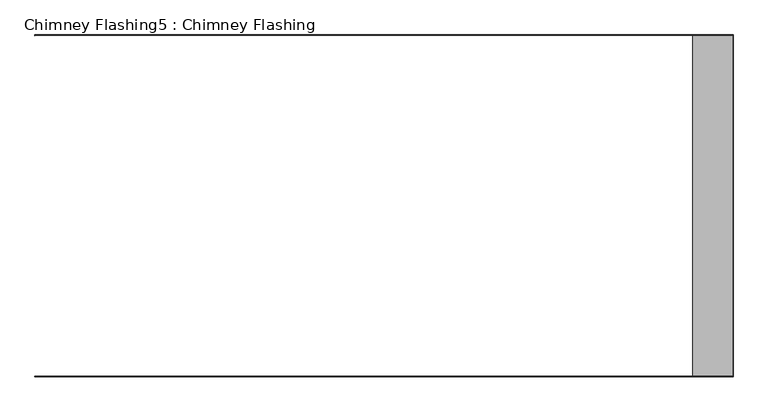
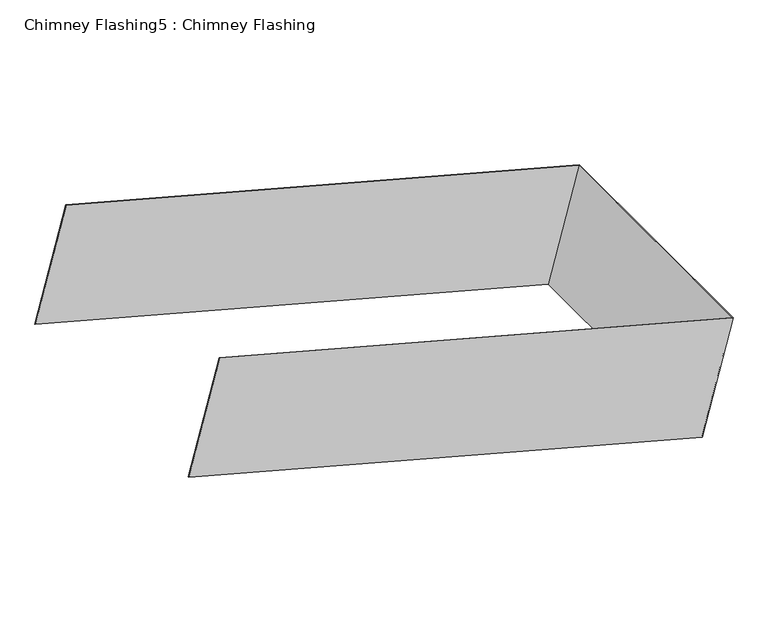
"""IFC4 building model written with IfcOpenShell, lengths in millimetres: proxy geometry, Chimney Flashing5 : Chimney Flashing."""

import ifcopenshell
import ifcopenshell.guid

model = None  # the IFC model being written
_history = None  # IfcOwnerHistory: only IFC2X3 demands one
_inside = {}  # id of a spatial element -> (the spatial element, [elements in it])
_under = {}  # id of a project, library or spatial element -> (it, [spatial elements below it])
_declared = {}  # id of a project -> (the project, [libraries it declares])
_typed = {}  # id of a type object -> (the type object, [elements of that type])
_made_of = {}  # id of a material, layer set ... -> (it, [elements and type objects made of it])


def new_model(schema):
    """Start an empty IFC model of exactly this schema.

    Asked for "IFC4X3", IfcOpenShell would pick the latest addendum, in which some entities
    have other attributes; the version numbers below select the first issue.
    IFC2X3 requires an IfcOwnerHistory on every rooted entity: one is made here for all.
    """
    global model, _history
    if schema == "IFC4X3":
        model = ifcopenshell.file(schema_version=(4, 3, 0, 0))
    else:
        model = ifcopenshell.file(schema=schema)
    _inside.clear()
    _under.clear()
    _declared.clear()
    _typed.clear()
    _made_of.clear()
    _history = None
    if model.schema == "IFC2X3":
        org = make("IfcOrganization", Name="unknown")
        user = make(
            "IfcPersonAndOrganization",
            ThePerson=make("IfcPerson", FamilyName="unknown"),
            TheOrganization=org,
        )
        app = make(
            "IfcApplication",
            ApplicationDeveloper=org,
            Version="unknown",
            ApplicationFullName="unknown",
            ApplicationIdentifier="unknown",
        )
        _history = make(
            "IfcOwnerHistory",
            OwningUser=user,
            OwningApplication=app,
            ChangeAction="ADDED",
            CreationDate=0,
        )
    return model


def make(cls, **values):
    """One entity of the class cls with the attributes given. An attribute that is None is left unset."""
    return model.create_entity(
        cls, **{name: value for name, value in values.items() if value is not None}
    )


def rooted(cls, **values):
    """An entity with a GlobalId (a new one), such as an element, a storey or a relation."""
    return make(cls, GlobalId=ifcopenshell.guid.new(), OwnerHistory=_history, **values)


def si_unit(unit_type, name, prefix=None):
    """IfcSIUnit, for example si_unit("LENGTHUNIT", "METRE", prefix="MILLI")."""
    return make("IfcSIUnit", UnitType=unit_type, Prefix=prefix, Name=name)


def assignment(units):
    """IfcUnitAssignment: the units of a project."""
    return None if units is None else make("IfcUnitAssignment", Units=units)


def point(xyz):
    """IfcCartesianPoint."""
    return None if xyz is None else make("IfcCartesianPoint", Coordinates=xyz)


def direction(xyz):
    """IfcDirection."""
    return None if xyz is None else make("IfcDirection", DirectionRatios=xyz)


def frame(location, z_axis=None, x_axis=None):
    """IfcAxis2Placement3D, a coordinate frame: its origin and axes. An axis left out is left unset."""
    return make(
        "IfcAxis2Placement3D",
        Location=point(location),
        Axis=direction(z_axis),
        RefDirection=direction(x_axis),
    )


def origin():
    """The frame at (0, 0, 0) with its axes left unset."""
    return frame((0.0, 0.0, 0.0))


def place(relative_to, where):
    """IfcLocalPlacement: puts the frame where relative to a parent placement (None: the world)."""
    return make(
        "IfcLocalPlacement", PlacementRelTo=relative_to, RelativePlacement=where
    )


def context(
    kind, dimensions, precision=None, world=None, true_north=None, identifier=None
):
    """IfcGeometricRepresentationContext, for example the 3D "Model" context."""
    return make(
        "IfcGeometricRepresentationContext",
        ContextIdentifier=identifier,
        ContextType=kind,
        CoordinateSpaceDimension=dimensions,
        Precision=precision,
        WorldCoordinateSystem=world,
        TrueNorth=true_north,
    )


def project(units=None, contexts=None):
    """IfcProject with its units and contexts."""
    return rooted(
        "IfcProject",
        Name="project",
        RepresentationContexts=contexts,
        UnitsInContext=assignment(units),
    )


def spatial(cls, under=None, at=None, **own):
    """A site, building, storey or space (cls), placed at a placement, below another one or the project."""
    s = rooted(cls, ObjectPlacement=at, **own)
    if under is not None:
        _under.setdefault(under.id(), (under, []))[1].append(s)
    return s


def polyline(points):
    """IfcPolyline through the points."""
    return make("IfcPolyline", Points=[point(p) for p in points])


def outline(outer, holes=None, kind="AREA"):
    """IfcArbitraryClosedProfileDef: a profile drawn as a closed curve; with holes, ...WithVoids."""
    if holes is None:
        return make("IfcArbitraryClosedProfileDef", ProfileType=kind, OuterCurve=outer)
    return make(
        "IfcArbitraryProfileDefWithVoids",
        ProfileType=kind,
        OuterCurve=outer,
        InnerCurves=holes,
    )


def extrude(swept, where, along, depth):
    """IfcExtrudedAreaSolid: the profile swept, set in the frame where, extruded along a direction by depth."""
    return make(
        "IfcExtrudedAreaSolid",
        SweptArea=swept,
        Position=where,
        ExtrudedDirection=direction(along),
        Depth=depth,
    )


def shape(context_of_items, identifier, shape_type, items):
    """IfcShapeRepresentation: the items that make up one representation, for example the "Body"."""
    return make(
        "IfcShapeRepresentation",
        ContextOfItems=context_of_items,
        RepresentationIdentifier=identifier,
        RepresentationType=shape_type,
        Items=items,
    )


def source(mapping_origin, context_of_items, identifier, shape_type, items):
    """IfcRepresentationMap: a shape defined once, which mapped items show again and again."""
    return make(
        "IfcRepresentationMap",
        MappingOrigin=mapping_origin,
        MappedRepresentation=shape(context_of_items, identifier, shape_type, items),
    )


def transform(
    local_origin,
    x_axis=None,
    y_axis=None,
    z_axis=None,
    scale=None,
    scale2=None,
    scale3=None,
    uniform=True,
):
    """IfcCartesianTransformationOperator3D, or its non-uniform kind. x_axis, y_axis, z_axis: its Axis1, 2, 3."""
    if uniform:
        return make(
            "IfcCartesianTransformationOperator3D",
            Axis1=direction(x_axis),
            Axis2=direction(y_axis),
            LocalOrigin=point(local_origin),
            Scale=scale,
            Axis3=direction(z_axis),
        )
    return make(
        "IfcCartesianTransformationOperator3DnonUniform",
        Axis1=direction(x_axis),
        Axis2=direction(y_axis),
        LocalOrigin=point(local_origin),
        Scale=scale,
        Axis3=direction(z_axis),
        Scale2=scale2,
        Scale3=scale3,
    )


def mapped(mapping_source, mapping_target):
    """IfcMappedItem: shows the shape of a source again, moved by a transform."""
    return make(
        "IfcMappedItem", MappingSource=mapping_source, MappingTarget=mapping_target
    )


def made_of(thing, what):
    """Note that an element or type object is made of a material, layer set ...; save() writes the relation."""
    if what is not None:
        _made_of.setdefault(what.id(), (what, []))[1].append(thing)
    return thing


def element(
    cls,
    number,
    at=None,
    inside=None,
    cuts=None,
    type_object=None,
    material=None,
    context=None,
    identifier="Body",
    shape_type=None,
    held_by="IfcProductDefinitionShape",
    body=None,
    shapes=None,
    **own,
):
    """One element of the class cls, such as IfcWall. Its Tag is "e" and its number.

    at: its placement. inside: the storey or other place that contains it. cuts: it is an
    opening in that element (IfcRelVoidsElement). A single representation is given by context,
    identifier, shape_type and body (its items); several are given by shapes. held_by: the class
    of the entity that holds the representations. save() writes the other relations.
    """
    e = rooted(cls, Tag="e%d" % number, ObjectPlacement=at, **own)
    if body is not None:
        shapes = [shape(context, identifier, shape_type, body)]
    if shapes is not None:
        e.Representation = make(held_by, Representations=shapes)
    if inside is not None:
        _inside.setdefault(inside.id(), (inside, []))[1].append(e)
    if cuts is not None:
        rooted(
            "IfcRelVoidsElement", RelatingBuildingElement=cuts, RelatedOpeningElement=e
        )
    if type_object is not None:
        _typed.setdefault(type_object.id(), (type_object, []))[1].append(e)
    return made_of(e, material)


def aggregate(whole, parts):
    """IfcRelAggregates: a whole, such as a stair, and the parts it consists of."""
    return rooted("IfcRelAggregates", RelatingObject=whole, RelatedObjects=parts)


def save(model, path):
    """Write the relations noted so far, then the file.

    IfcRelAggregates (storeys below a building ...), IfcRelContainedInSpatialStructure (elements
    in a storey), IfcRelDefinesByType, IfcRelAssociatesMaterial and IfcRelDeclares: one each for
    every whole, place, type object, material and project.
    """
    for whole, parts in _under.values():
        aggregate(whole, parts)
    for where, things in _inside.values():
        rooted(
            "IfcRelContainedInSpatialStructure",
            RelatedElements=things,
            RelatingStructure=where,
        )
    for kind, things in _typed.values():
        rooted("IfcRelDefinesByType", RelatedObjects=things, RelatingType=kind)
    for what, things in _made_of.values():
        rooted("IfcRelAssociatesMaterial", RelatedObjects=things, RelatingMaterial=what)
    for by, libraries in _declared.values():
        rooted("IfcRelDeclares", RelatingContext=by, RelatedDefinitions=libraries)
    model.write(path)


def chimney_flashing5_chimney_flashing_99ecaff2(model_context):
    return source(origin(), model_context, "Body", "SweptSolid", [
        extrude(outline(polyline([(0.0, -1.0), (0.0, 0.0), (1200.9999999, 0.0), (1200.9999999, -602.0), (0.0, -602.0), (0.0, -601.0), (1199.9999999, -601.0), (1199.9999999, -1.0), (0.0, -1.0)])), frame((-6064.0995454, -34611.8838318, 7284.2509927), z_axis=(0.25856567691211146, 0.0, 0.9659936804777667), x_axis=(0.9659936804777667, 0.0, -0.25856567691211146)), (0.0, 0.0, 1.0), 269.6718079),
    ])


if __name__ == "__main__":
    model = new_model("IFC4")
    model_context = context("Model", 3, world=origin())
    ifc_project = project(units=[si_unit("LENGTHUNIT", "METRE", prefix="MILLI")], contexts=[model_context])
    site = spatial("IfcSite", under=ifc_project)
    building = spatial("IfcBuilding", under=site)
    placement = place(None, origin())
    chimney_flashing5_chimney_flashing_shape = chimney_flashing5_chimney_flashing_99ecaff2(model_context)
    element("IfcBuildingElementProxy", 1, Name="Chimney Flashing5 : Chimney Flashing", ObjectType="Chimney Flashing5 : Chimney Flashing", at=placement, inside=building, context=model_context, shape_type="MappedRepresentation", body=[
        mapped(chimney_flashing5_chimney_flashing_shape, transform((0.0, 0.0, 0.0), x_axis=(1.0, 0.0, 0.0), y_axis=(0.0, 1.0, 0.0), z_axis=(0.0, 0.0, 1.0))),
    ])
    save(model, "model.ifc")
